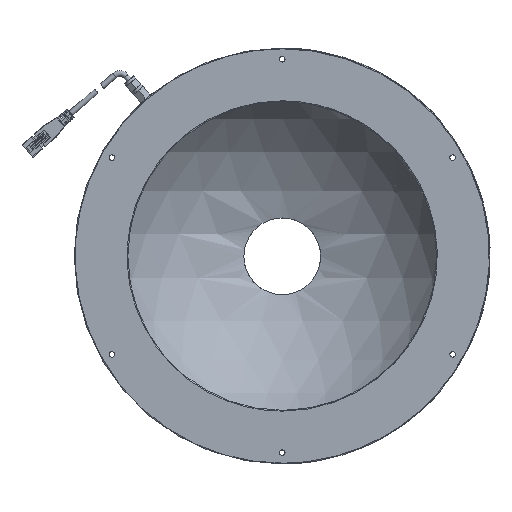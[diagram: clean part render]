
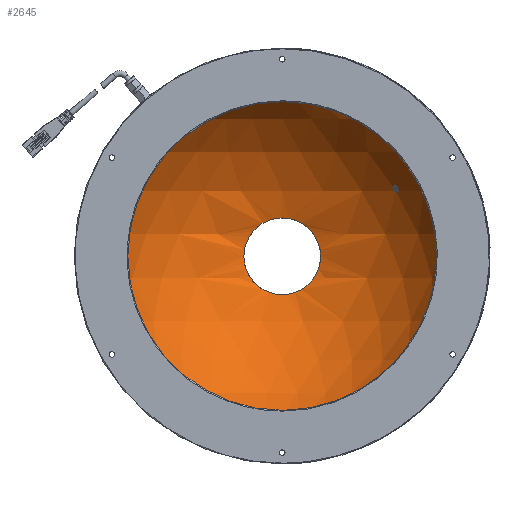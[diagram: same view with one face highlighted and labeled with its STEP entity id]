
A CAD part, top view. The second image highlights one B-rep face of the part: STEP entity #2645.
In plain terms, the highlighted spherical face has radius 115.5 mm.
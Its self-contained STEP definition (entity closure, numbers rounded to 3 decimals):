
#23=SPHERICAL_SURFACE('',#10388,115.5);
#2645=ADVANCED_FACE('',(#3149,#3150),#23,.F.);
#3149=FACE_BOUND('',#3638,.T.);
#3150=FACE_BOUND('',#3639,.T.);
#3638=EDGE_LOOP('',(#6252,#6253));
#3639=EDGE_LOOP('',(#6254,#6255));
#3863=CIRCLE('',#10224,24.);
#3924=CIRCLE('',#10360,24.);
#3925=CIRCLE('',#10386,115.483);
#3926=CIRCLE('',#10387,115.483);
#6252=ORIENTED_EDGE('',*,*,#8986,.F.);
#6253=ORIENTED_EDGE('',*,*,#8677,.F.);
#6254=ORIENTED_EDGE('',*,*,#9066,.F.);
#6255=ORIENTED_EDGE('',*,*,#9067,.F.);
#7464=VERTEX_POINT('',#17238);
#7465=VERTEX_POINT('',#17240);
#7714=VERTEX_POINT('',#20648);
#7715=VERTEX_POINT('',#20649);
#8677=EDGE_CURVE('',#7464,#7465,#3863,.T.);
#8986=EDGE_CURVE('',#7465,#7464,#3924,.T.);
#9066=EDGE_CURVE('',#7714,#7715,#3925,.T.);
#9067=EDGE_CURVE('',#7715,#7714,#3926,.T.);
#10224=AXIS2_PLACEMENT_3D('',#17239,#11513,#11514);
#10360=AXIS2_PLACEMENT_3D('',#19699,#11836,#11837);
#10386=AXIS2_PLACEMENT_3D('',#20647,#11900,#11901);
#10387=AXIS2_PLACEMENT_3D('',#20650,#11902,#11903);
#10388=AXIS2_PLACEMENT_3D('',#20651,#11904,#11905);
#11513=DIRECTION('',(0.,0.,1.));
#11514=DIRECTION('',(1.,0.,0.));
#11836=DIRECTION('',(0.,0.,1.));
#11837=DIRECTION('',(1.,0.,0.));
#11900=DIRECTION('',(0.,0.,-1.));
#11901=DIRECTION('',(-1.,0.,0.));
#11902=DIRECTION('',(0.,0.,-1.));
#11903=DIRECTION('',(-1.,0.,0.));
#11904=DIRECTION('',(0.,-1.,0.));
#11905=DIRECTION('',(-1.,0.,0.));
#17238=CARTESIAN_POINT('',(-24.,0.,-112.979));
#17239=CARTESIAN_POINT('',(0.,0.,-112.979));
#17240=CARTESIAN_POINT('',(24.,0.,-112.979));
#19699=CARTESIAN_POINT('',(0.,0.,-112.979));
#20647=CARTESIAN_POINT('',(0.,0.,-1.966));
#20648=CARTESIAN_POINT('',(0.06,115.483,-1.966));
#20649=CARTESIAN_POINT('',(-0.06,-115.483,-1.966));
#20650=CARTESIAN_POINT('',(0.,0.,-1.966));
#20651=CARTESIAN_POINT('',(0.,0.,0.));
